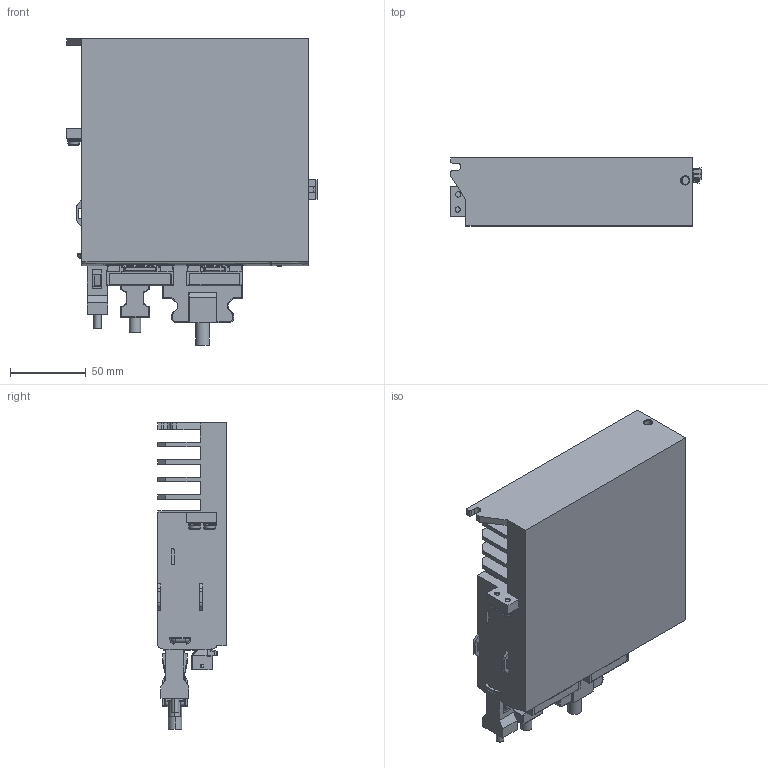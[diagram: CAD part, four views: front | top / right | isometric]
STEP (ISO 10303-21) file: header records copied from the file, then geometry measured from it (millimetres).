
FILE_DESCRIPTION (( 'STEP AP214' ), '1' );
FILE_NAME ('400W-AP.STEP', '2022-11-02T06:41:08', ( '' ), ( '' ), 'SwSTEP 2.0', 'SolidWorks 2014', '' );
FILE_SCHEMA (( 'AUTOMOTIVE_DESIGN' ));
Length unit declared in the file: millimetre
Products named in the file (26): 400WP; jack-t3507506; 400W-AP; M4-H8; MUF-PK10K-X; STO鼠芛-C3030HF-2X4P-12B5SLDPRT; plug-t3507505; jack-t3507505; plug-t3507506; 橈勤硉晤鎢ん脣芛; STOM2X04P; 控制回路端子插座-SCI-SOSCN-君昊; STO譫釱-C3030WR-F-2X04P
Assembly tree (13 placements, depth 2):
  400WP
  jack-t3507506
  400W-AP
    400WP
    M4-H8  x2
    jack-t3507505
    jack-t3507506
    plug-t3507505
    STOM2X04P
    plug-t3507506
    STO譫釱-C3030WR-F-2X04P
    STO鼠芛-C3030HF-2X4P-12B5SLDPRT
    橈勤硉晤鎢ん脣芛
    控制回路端子插座-SCI-SOSCN-君昊
    MUF-PK10K-X
  M4-H8
  plug-t3507505
Bounding box: 165.5 x 45 x 202.6 mm (x, y, z)
Volume: 874340.8 mm3; surface area: 168136.6 mm2
Topology: 20 solids, 20 shells, 4396 faces, 12064 edges, 7784 vertices
Faces by surface type: plane 3412, cylinder 491, bspline 424, sphere 26, torus 24, cone 19
Entity records: 155383 total; most frequent: CARTESIAN_POINT 47240, ORIENTED_EDGE 23884, DIRECTION 19249, EDGE_CURVE 11942, VECTOR 9845, LINE 9845, VERTEX_POINT 7720, AXIS2_PLACEMENT_3D 4702
